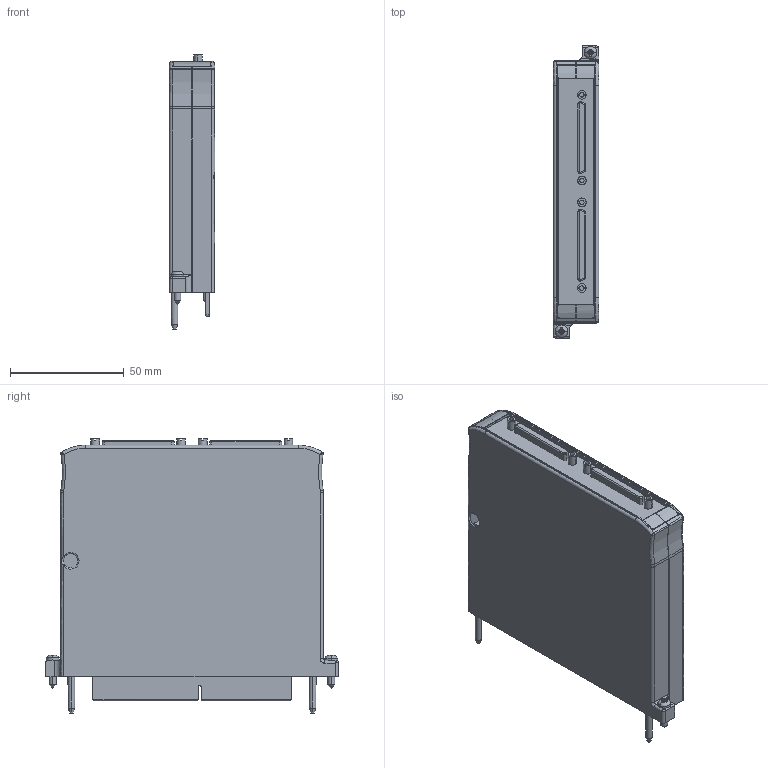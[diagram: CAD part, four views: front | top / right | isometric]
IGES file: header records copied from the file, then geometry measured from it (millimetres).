
Start section:  PTC IGES file: cu_ni-flexrio-6585.igs
Global section: file name: cu_ni-flexrio-6585.igs; native system: Pro/ENGINEER by Parametric Technology Corporation; preprocessor: 2006300; author: brucep; organization: Unknown; date: 20090601.171942; units: inch
Bounding box: 20.02 x 128.65 x 120.5 mm (x, y, z)
Surface area: 101829.7 mm2 (no closed solid volume)
Topology: 0 solids, 0 shells, 2899 faces, 14332 edges, 14320 vertices
Faces by surface type: bspline 2316, revolution 583
